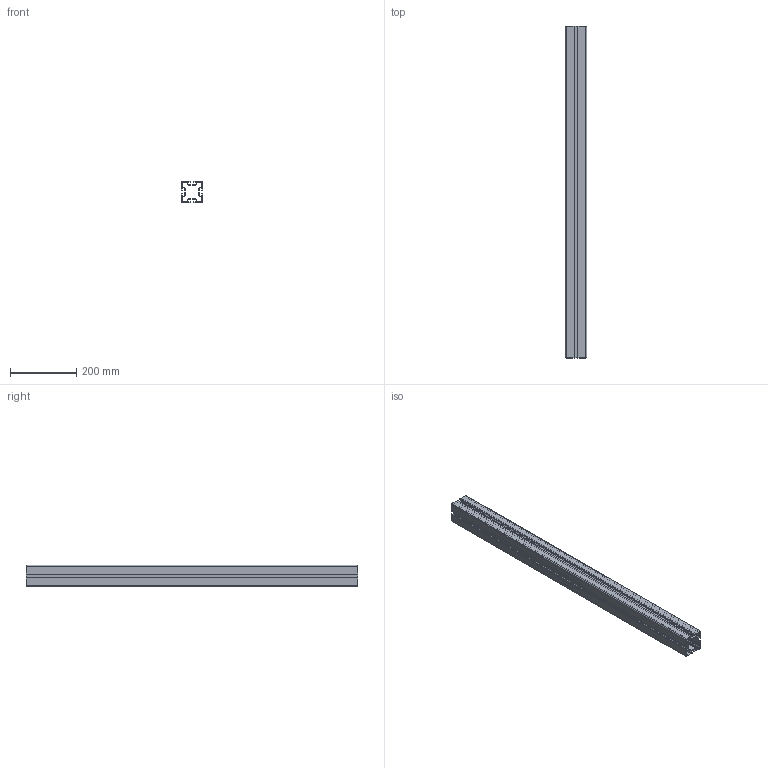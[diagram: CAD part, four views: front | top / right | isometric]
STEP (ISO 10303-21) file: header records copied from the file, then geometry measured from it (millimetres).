
FILE_DESCRIPTION (( 'STEP AP214' ), '1' );
FILE_NAME ('TC64.step', '2017-04-05T08:05:56', ( '' ), ( '' ), 'SwSTEP 2.0', 'SolidWorks 2015', '' );
FILE_SCHEMA (( 'AUTOMOTIVE_DESIGN' ));
Length unit declared in the file: millimetre
Products named in the file (1): TC64
Bounding box: 64 x 1000 x 64 mm (x, y, z)
Volume: 777689.5 mm3; surface area: 747452.5 mm2
Topology: 1 solids, 1 shells, 180 faces, 534 edges, 356 vertices
Faces by surface type: plane 98, cylinder 82
Entity records: 6100 total; most frequent: CARTESIAN_POINT 1071, ORIENTED_EDGE 1068, DIRECTION 1060, EDGE_CURVE 534, LINE 370, VECTOR 370, VERTEX_POINT 356, AXIS2_PLACEMENT_3D 345
